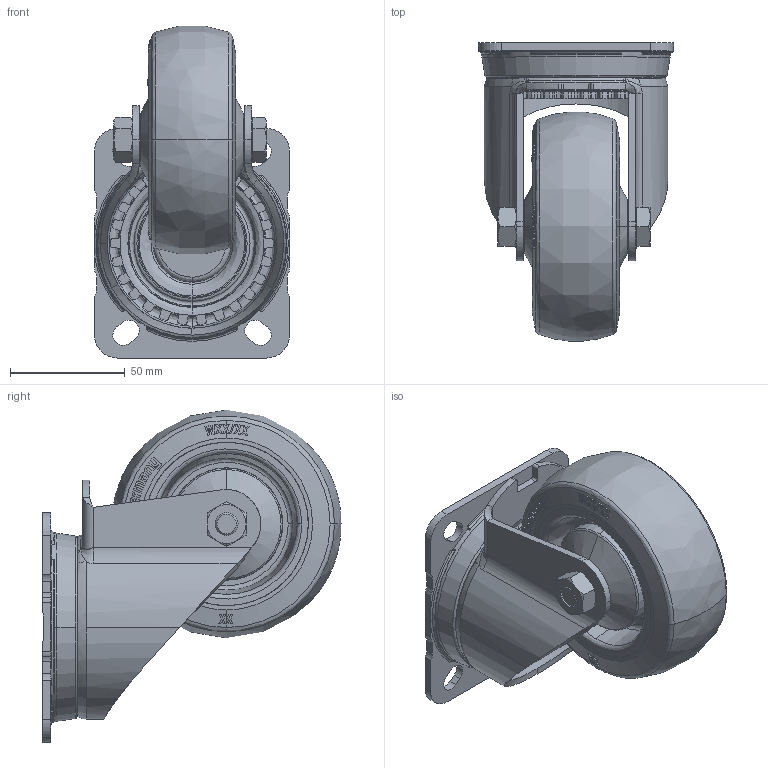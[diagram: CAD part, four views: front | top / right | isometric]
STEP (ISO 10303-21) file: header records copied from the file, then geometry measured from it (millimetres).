
FILE_DESCRIPTION (( 'STEP AP214' ), '1' );
FILE_NAME ('LKX-POBS_100XKA-1_922006-214.step', '2017-06-20T10:27:30', ( '' ), ( '' ), 'SwSTEP 2.0', 'SolidWorks 2010', '' );
FILE_SCHEMA (( 'AUTOMOTIVE_DESIGN' ));
Length unit declared in the file: millimetre
Products named in the file (4): AM_LIK_10x52x3_D20_K; GH-LKX_100-1_G15; POBS_100x38_10XKA_857164; LKX-POBS_100XKA-1_922006-214
Assembly tree (3 placements, depth 2):
  LKX-POBS_100XKA-1_922006-214
    GH-LKX_100-1_G15
    AM_LIK_10x52x3_D20_K
    POBS_100x38_10XKA_857164
Bounding box: 85 x 129.88 x 144.66 mm (x, y, z)
Volume: 354046 mm3; surface area: 109511.6 mm2
Topology: 3 solids, 8 shells, 1495 faces, 4054 edges, 2660 vertices
Faces by surface type: plane 626, bspline 385, cylinder 339, cone 145
Entity records: 81381 total; most frequent: CARTESIAN_POINT 29694, ORIENTED_EDGE 8104, DIRECTION 6238, EDGE_CURVE 4052, VERTEX_POINT 2660, AXIS2_PLACEMENT_3D 2231, LINE 1776, VECTOR 1776
